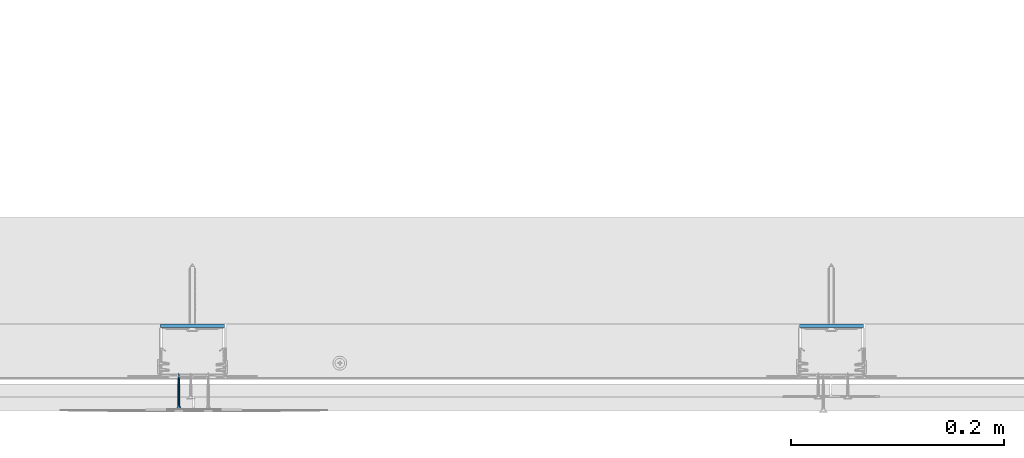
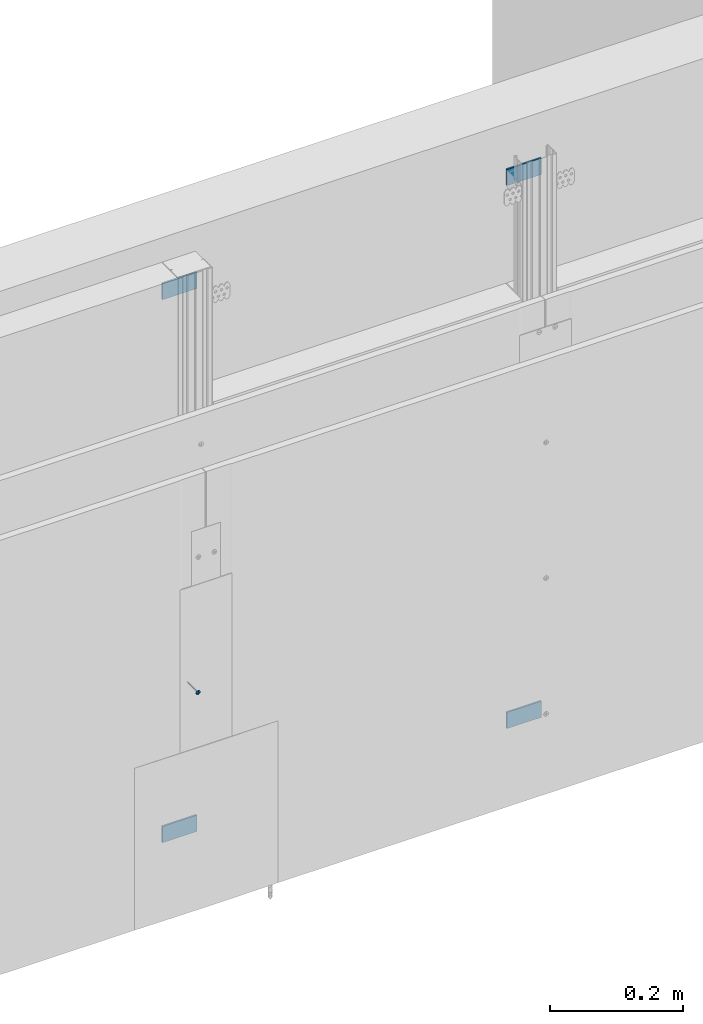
# One storey, part 13 of 56: 5 walls.
"""IFC2X3 building model written with IfcOpenShell, lengths in millimetres."""

from ifc_helpers import new_model, entity, si_unit, converted_unit, direction, frame, origin, origin_with_axes, place, context, project, spatial, faceted_brep, element, save


model = new_model("IFC2X3")

# Units and contexts
model_context = context("Model", 3, precision=1e-05, world=origin(), true_north=direction((0.0, 1.0, 0.0)))
ifc_project = project(units=[si_unit("LENGTHUNIT", "METRE", prefix="MILLI"), si_unit("AREAUNIT", "SQUARE_METRE"), si_unit("VOLUMEUNIT", "CUBIC_METRE"), converted_unit("PLANEANGLEUNIT", "DEGREE", entity("IfcPlaneAngleMeasure", 0.01745), si_unit("PLANEANGLEUNIT", "RADIAN"), dimensions=[0, 0, 0, 0, 0, 0, 0]), si_unit("SOLIDANGLEUNIT", "STERADIAN"), si_unit("MASSUNIT", "GRAM"), si_unit("TIMEUNIT", "SECOND"), si_unit("THERMODYNAMICTEMPERATUREUNIT", "DEGREE_CELSIUS"), si_unit("LUMINOUSINTENSITYUNIT", "LUMEN")], contexts=[model_context])

# Site, building, storey
site_placement = place(None, origin_with_axes())
site = spatial("IfcSite", under=ifc_project, at=site_placement, Name="Default Site", CompositionType="ELEMENT")
building_placement = place(site_placement, origin_with_axes())
building = spatial("IfcBuilding", under=site, at=building_placement, Name="Default Building", CompositionType="ELEMENT")
storey_placement = place(building_placement, origin_with_axes())
storey = spatial("IfcBuildingStorey", under=building, at=storey_placement, Name="Default Building Storey", CompositionType="ELEMENT", Elevation=0.0)

# Walls
for number, where, z_axis, x_axis, name in (
    (1, (2574.793559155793, 2019.140922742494, 1120.095276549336), (0.0, 0.0, 1.0), (1.0, 0.0, 0.0), "Taśma uszczelniająca piankowa RIGIPS szer.30mm"),
    (2, (2574.793559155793, 2019.140922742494, 120.0952765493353), (0.0, 0.0, 1.0), (1.0, 0.0, 0.0), "Taśma uszczelniająca piankowa RIGIPS szer.30mm"),
    (3, (3174.793559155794, 2019.140922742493, 1120.095276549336), (0.0, 0.0, 1.0), (1.0, 0.0, 0.0), "Taśma uszczelniająca piankowa RIGIPS szer.30mm"),
    (4, (3174.793559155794, 2019.140922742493, 120.0952765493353), (0.0, 0.0, 1.0), (1.0, 0.0, 0.0), "Taśma uszczelniająca piankowa RIGIPS szer.30mm"),
):
    element("IfcWall", number, at=place(storey_placement, frame(where, z_axis=z_axis, x_axis=x_axis)), inside=storey, Name=name, context=model_context, shape_type="Brep", body=[
        faceted_brep([(59.99999999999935, 0.0, 4.511946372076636e-12), (0.0, 0.0, 0.0), (1.082867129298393e-12, -2.237925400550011e-11, -30.00000000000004), (60.00000000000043, -2.237925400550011e-11, -29.99999999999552), (0.0, 3.00000000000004, 0.0), (1.082867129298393e-12, 2.999999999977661, -30.00000000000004), (60.00000000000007, 3.00000000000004, 0.0), (60.00000000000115, 2.999999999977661, -30.00000000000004)], [[[0, 1, 2, 3]], [[1, 4, 5, 2]], [[4, 6, 7, 5]], [[6, 0, 3, 7]], [[7, 3, 2, 5]], [[0, 6, 4, 1]]]),
    ])
wall_placement = place(storey_placement, frame((2454.507689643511, 6774.47812905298, -147.7442920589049), z_axis=(0.0, 0.0, 1.0), x_axis=(-1.0, 4.718447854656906e-16, 0.0)))
element("IfcWall", 5, at=wall_placement, inside=storey, Name="Wkręt RIGIPS TN 35", context=model_context, shape_type="Brep", body=[
    faceted_brep([(-141.5377463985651, 4832.598051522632, 555.8000000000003), (-141.5377463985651, 4833.259713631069, 555.8000000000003), (-141.4875329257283, 4833.259713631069, 555.1619773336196), (-141.4875329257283, 4832.598051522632, 555.1619773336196), (-141.3381289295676, 4833.259713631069, 554.5396649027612), (-141.3381289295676, 4832.598051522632, 554.5396649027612), (-141.0932132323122, 4833.259713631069, 553.9483861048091), (-141.0932132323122, 4832.598051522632, 553.9483861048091), (-140.7588164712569, 4833.259713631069, 553.4027001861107), (-140.7588164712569, 4832.598051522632, 553.4027001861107), (-140.3431726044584, 4833.259713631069, 552.9160437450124), (-140.4541727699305, 4832.598051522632, 553.0314907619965), (-140.1080097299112, 4832.598051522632, 552.6986614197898), (-139.8565161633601, 4833.259713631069, 552.5003998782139), (-139.7251262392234, 4832.598051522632, 552.4088262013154), (-139.3108302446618, 4833.259713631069, 552.1660031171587), (-139.3108302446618, 4832.598051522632, 552.1660031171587), (-138.8708651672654, 4832.598051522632, 551.9735584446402), (-138.7195514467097, 4833.259713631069, 551.9210874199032), (-138.4113302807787, 4832.598051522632, 551.8341600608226), (-137.9385961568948, 4832.598051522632, 551.7497404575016), (-138.0972390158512, 4833.259713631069, 551.7716834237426), (-137.4592163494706, 4833.259713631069, 551.7214699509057), (-137.4592163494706, 4832.598051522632, 551.7214699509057), (-136.8211936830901, 4833.259713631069, 551.7716834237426), (-136.8211936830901, 4832.598051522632, 551.7716834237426), (-136.1988812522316, 4833.259713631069, 551.9210874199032), (-136.1988812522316, 4832.598051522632, 551.9210874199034), (-135.6076024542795, 4833.259713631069, 552.1660031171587), (-135.6076024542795, 4832.598051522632, 552.1660031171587), (-135.0619165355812, 4833.259713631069, 552.5003998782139), (-135.0619165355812, 4832.598051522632, 552.5003998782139), (-134.5752600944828, 4833.259713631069, 552.9160437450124), (-134.5752600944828, 4832.598051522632, 552.9160437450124), (-134.1596162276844, 4833.259713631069, 553.4027001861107), (-134.1596162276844, 4832.598051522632, 553.4027001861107), (-133.8252194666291, 4833.259713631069, 553.9483861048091), (-133.8252194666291, 4832.598051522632, 553.9483861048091), (-133.5803037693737, 4833.259713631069, 554.5396649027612), (-133.5803037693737, 4832.598051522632, 554.5396649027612), (-133.430899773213, 4833.259713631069, 556.4380226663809), (-133.430899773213, 4832.598051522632, 556.4380226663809), (-133.3806863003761, 4832.598051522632, 555.8000000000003), (-133.3806863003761, 4833.259713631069, 555.8000000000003), (-133.430899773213, 4832.598051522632, 555.1619773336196), (-133.430899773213, 4833.259713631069, 555.1619773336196), (-133.5803037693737, 4833.259713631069, 557.0603350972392), (-133.5803037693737, 4832.598051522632, 557.0603350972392), (-133.8252194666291, 4833.259713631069, 557.6516138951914), (-133.8252194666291, 4832.598051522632, 557.6516138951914), (-134.1596162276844, 4833.259713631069, 558.1972998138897), (-134.1596162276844, 4832.598051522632, 558.1972998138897), (-134.5752600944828, 4833.259713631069, 558.683956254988), (-134.5752600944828, 4832.598051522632, 558.683956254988), (-135.0619165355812, 4833.259713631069, 559.0996001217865), (-135.0619165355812, 4832.598051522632, 559.0996001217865), (-135.6076024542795, 4833.259713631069, 559.4339968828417), (-135.6076024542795, 4832.598051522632, 559.4339968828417), (-136.1988812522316, 4833.259713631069, 559.6789125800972), (-136.1988812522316, 4832.598051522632, 559.6789125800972), (-136.8211936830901, 4833.259713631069, 559.8283165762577), (-136.8211936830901, 4832.598051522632, 559.8283165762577), (-137.4592163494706, 4833.259713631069, 559.8785300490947), (-137.4592163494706, 4832.598051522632, 559.8785300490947), (-138.0972390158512, 4833.259713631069, 559.8283165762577), (-138.0972390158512, 4832.598051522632, 559.8283165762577), (-138.7195514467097, 4833.259713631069, 559.6789125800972), (-138.7195514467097, 4832.598051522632, 559.6789125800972), (-139.3108302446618, 4833.259713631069, 559.4339968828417), (-139.3108302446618, 4832.598051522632, 559.4339968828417), (-139.8565161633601, 4833.259713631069, 559.0996001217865), (-139.8565161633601, 4832.598051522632, 559.0996001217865), (-140.3431726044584, 4833.259713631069, 558.683956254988), (-140.3431726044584, 4832.598051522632, 558.683956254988), (-140.7588164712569, 4833.259713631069, 558.1972998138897), (-140.7588164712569, 4832.598051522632, 558.1972998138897), (-141.0932132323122, 4833.259713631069, 557.6516138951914), (-141.0932132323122, 4832.598051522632, 557.6516138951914), (-141.3381289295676, 4833.259713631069, 557.0603350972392), (-141.3381289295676, 4832.598051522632, 557.0603350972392), (-141.4875329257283, 4833.259713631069, 556.4380226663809), (-141.4875329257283, 4832.598051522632, 556.4380226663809), (-137.8060615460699, 4829.281368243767, 554.5055560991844), (-137.4592163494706, 4828.206294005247, 554.5693795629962), (-137.651727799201, 4828.206294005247, 554.5845305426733), (-137.4592163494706, 4829.281368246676, 554.4598930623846), (-137.83949897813, 4828.206294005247, 554.6296104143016), (-138.1292698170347, 4829.281368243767, 554.639433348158), (-138.0179063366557, 4828.206294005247, 554.7035091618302), (-138.1825568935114, 4828.206294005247, 554.804407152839), (-138.4068150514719, 4829.281368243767, 554.8524012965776), (-138.329396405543, 4828.206294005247, 554.929819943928), (-138.6197830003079, 4829.281368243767, 555.1299465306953), (-138.4548091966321, 4828.206294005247, 555.0766594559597), (-138.5557071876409, 4828.206294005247, 555.2413100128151), (-138.7536602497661, 4829.281368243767, 555.4531548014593), (-138.6296059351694, 4828.206294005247, 555.4197173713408), (-138.6746858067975, 4828.206294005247, 555.60748855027), (-138.7993232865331, 4829.281368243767, 555.7999999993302), (-138.6898367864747, 4828.206294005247, 555.8000000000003), (-138.753660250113, 4829.281368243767, 556.1468451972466), (-138.6746858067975, 4828.206294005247, 555.9925114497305), (-138.6296059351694, 4828.206294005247, 556.1802826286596), (-138.6197830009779, 4829.281368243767, 556.4700534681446), (-138.5557071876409, 4828.206294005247, 556.3586899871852), (-138.4548091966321, 4828.206294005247, 556.5233405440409), (-138.4068150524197, 4829.281368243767, 556.7475987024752), (-138.329396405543, 4828.206294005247, 556.6701800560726), (-138.1292698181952, 4829.281368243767, 556.9605666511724), (-138.1825568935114, 4828.206294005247, 556.7955928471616), (-138.0179063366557, 4828.206294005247, 556.8964908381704), (-137.8060615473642, 4829.281368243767, 557.0944439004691), (-137.83949897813, 4828.206294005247, 556.9703895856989), (-137.651727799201, 4828.206294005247, 557.0154694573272), (-137.4592163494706, 4829.281368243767, 557.1401069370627), (-137.4592163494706, 4828.206294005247, 557.0306204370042), (-137.112371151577, 4829.281368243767, 557.0944439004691), (-137.2667048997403, 4828.206294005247, 557.0154694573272), (-137.0789337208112, 4828.206294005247, 556.9703895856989), (-136.7891628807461, 4829.281368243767, 556.9605666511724), (-136.9005263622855, 4828.206294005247, 556.8964908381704), (-136.7358758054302, 4828.206294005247, 556.7955928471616), (-136.5116176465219, 4829.281368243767, 556.7475987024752), (-136.5890362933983, 4828.206294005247, 556.6701800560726), (-136.2986496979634, 4829.281368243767, 556.4700534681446), (-136.4636235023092, 4828.206294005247, 556.5233405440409), (-136.3627255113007, 4828.206294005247, 556.3586899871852), (-136.1647724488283, 4829.281368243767, 556.1468451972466), (-136.2888267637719, 4828.206294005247, 556.1802826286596), (-136.2437468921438, 4828.206294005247, 555.9925114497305), (-136.1191094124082, 4829.281368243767, 555.7999999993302), (-136.2285959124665, 4828.206294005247, 555.8000000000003), (-136.1647724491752, 4829.281368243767, 555.4531548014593), (-136.2437468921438, 4828.206294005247, 555.60748855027), (-136.2888267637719, 4828.206294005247, 555.4197173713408), (-136.2986496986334, 4829.281368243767, 555.1299465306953), (-136.3627255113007, 4828.206294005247, 555.2413100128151), (-136.4636235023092, 4828.206294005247, 555.0766594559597), (-136.5116176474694, 4829.281368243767, 554.8524012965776), (-136.5890362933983, 4828.206294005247, 554.929819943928), (-136.7891628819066, 4829.281368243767, 554.639433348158), (-136.7358758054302, 4828.206294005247, 554.804407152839), (-136.9005263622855, 4828.206294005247, 554.7035091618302), (-137.1123711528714, 4829.281368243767, 554.5055560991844), (-137.0789337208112, 4828.206294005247, 554.6296104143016), (-137.2667048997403, 4828.206294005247, 554.5845305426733), (-137.4592163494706, 4830.288222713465, 554.1737111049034), (-137.8801308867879, 4830.288222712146, 554.229125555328), (-138.2723607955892, 4830.288222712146, 554.3915925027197), (-138.6091762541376, 4830.288222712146, 554.6500400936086), (-138.8676238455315, 4830.288222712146, 554.9868555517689), (-139.0300907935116, 4830.288222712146, 555.3790854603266), (-139.0855052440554, 4830.288222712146, 555.7999999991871), (-139.0300907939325, 4830.288222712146, 556.2209145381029), (-138.8676238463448, 4830.288222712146, 556.6131444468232), (-138.6091762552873, 4830.288222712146, 556.9499599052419), (-138.2723607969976, 4830.288222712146, 557.2084074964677), (-137.8801308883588, 4830.288222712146, 557.3708744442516), (-137.4592163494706, 4830.288222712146, 557.426288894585), (-137.0383018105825, 4830.288222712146, 557.3708744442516), (-136.6460719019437, 4830.288222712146, 557.2084074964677), (-136.309256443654, 4830.288222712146, 556.9499599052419), (-136.0508088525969, 4830.288222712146, 556.6131444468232), (-135.8883419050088, 4830.288222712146, 556.2209145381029), (-135.8329274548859, 4830.288222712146, 555.7999999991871), (-135.8883419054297, 4830.288222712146, 555.3790854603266), (-136.0508088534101, 4830.288222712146, 554.9868555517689), (-136.309256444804, 4830.288222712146, 554.6500400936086), (-136.6460719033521, 4830.288222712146, 554.3915925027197), (-137.0383018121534, 4830.288222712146, 554.229125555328), (-137.4592163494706, 4831.168773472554, 553.7273431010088), (-137.9956594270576, 4831.168773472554, 553.7979671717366), (-138.4955447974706, 4831.168773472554, 554.005026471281), (-138.9248060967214, 4831.168773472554, 554.3344102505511), (-139.2541898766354, 4831.168773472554, 554.7636715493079), (-139.4612491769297, 4831.168773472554, 555.2635569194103), (-139.5318732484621, 4831.168773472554, 555.7999999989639), (-139.461249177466, 4831.168773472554, 556.3364430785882), (-139.2541898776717, 4831.168773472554, 556.8363284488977), (-138.9248060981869, 4831.168773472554, 557.2655897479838), (-138.4955447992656, 4831.168773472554, 557.594973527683), (-137.9956594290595, 4831.168773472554, 557.8020328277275), (-137.4592163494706, 4831.168773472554, 557.8726568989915), (-136.9227732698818, 4831.168773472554, 557.8020328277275), (-136.4228878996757, 4831.168773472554, 557.594973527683), (-135.9936266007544, 4831.168773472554, 557.2655897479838), (-135.6642428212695, 4831.168773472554, 556.8363284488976), (-135.4571835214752, 4831.168773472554, 556.3364430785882), (-135.3865594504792, 4831.168773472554, 555.7999999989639), (-135.4571835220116, 4831.168773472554, 555.2635569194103), (-135.6642428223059, 4831.168773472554, 554.7636715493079), (-135.9936266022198, 4831.168773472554, 554.3344102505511), (-136.4228879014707, 4831.168773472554, 554.005026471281), (-136.9227732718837, 4831.168773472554, 553.7979671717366), (-137.4592163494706, 4831.872222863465, 553.1465393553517), (-138.1459824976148, 4831.872222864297, 553.2369538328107), (-138.7859466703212, 4831.872222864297, 553.5020356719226), (-139.3354963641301, 4831.872222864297, 553.9237199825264), (-139.7571806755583, 4831.872222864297, 554.4732696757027), (-140.02226251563, 4831.872222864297, 555.1132338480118), (-140.1126769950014, 4831.872222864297, 555.7999999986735), (-140.0222625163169, 4831.872222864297, 556.4867661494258), (-139.7571806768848, 4831.872222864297, 557.1267303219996), (-139.3354963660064, 4831.872222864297, 557.6762800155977), (-138.785946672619, 4831.872222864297, 558.0979643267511), (-138.1459825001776, 4831.872222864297, 558.3630461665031), (-137.4592163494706, 4831.872222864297, 558.4534606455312), (-136.7724501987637, 4831.872222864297, 558.3630461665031), (-136.1324860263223, 4831.872222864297, 558.0979643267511), (-135.5829363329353, 4831.872222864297, 557.6762800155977), (-135.1612520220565, 4831.872222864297, 557.1267303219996), (-134.8961701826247, 4831.872222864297, 556.4867661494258), (-134.8057557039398, 4831.872222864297, 555.7999999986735), (-134.8961701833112, 4831.872222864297, 555.1132338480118), (-135.161252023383, 4831.872222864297, 554.4732696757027), (-135.5829363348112, 4831.872222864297, 553.9237199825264), (-136.1324860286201, 4831.872222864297, 553.5020356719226), (-136.7724502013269, 4831.872222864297, 553.2369538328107), (-137.4592163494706, 4832.357989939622, 552.4648055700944), (-138.3224281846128, 4832.357989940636, 552.578449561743), (-139.1268135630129, 4832.357989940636, 552.9116368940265), (-139.8175549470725, 4832.357989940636, 553.4416613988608), (-140.3475794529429, 4832.357989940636, 554.1324027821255), (-140.6807667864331, 4832.357989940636, 554.9367881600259), (-140.7944107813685, 4832.357989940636, 555.7999999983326), (-140.6807667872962, 4832.357989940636, 556.6632118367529), (-140.3475794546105, 4832.357989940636, 557.4675972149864), (-139.817554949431, 4832.357989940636, 558.1583385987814), (-139.1268135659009, 4832.357989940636, 558.6883631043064), (-138.3224281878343, 4832.357989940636, 559.0215504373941), (-137.4592163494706, 4832.357989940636, 559.1351944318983), (-136.5960045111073, 4832.357989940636, 559.0215504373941), (-135.7916191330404, 4832.357989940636, 558.6883631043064), (-135.1008777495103, 4832.357989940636, 558.1583385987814), (-134.5708532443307, 4832.357989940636, 557.4675972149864), (-134.2376659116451, 4832.357989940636, 556.6632118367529), (-134.1240219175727, 4832.357989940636, 555.7999999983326), (-134.2376659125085, 4832.357989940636, 554.9367881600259), (-134.5708532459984, 4832.357989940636, 554.1324027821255), (-135.1008777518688, 4832.357989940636, 553.4416613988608), (-135.7916191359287, 4832.357989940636, 552.9116368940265), (-136.5960045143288, 4832.357989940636, 552.578449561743), (-138.6898367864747, 4804.093757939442, 555.8000000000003), (-138.6746858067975, 4804.093757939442, 555.60748855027), (-138.6296059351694, 4804.093757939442, 555.4197173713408), (-138.5557071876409, 4804.093757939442, 555.2413100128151), (-138.4548091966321, 4804.093757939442, 555.0766594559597), (-138.329396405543, 4804.093757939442, 554.929819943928), (-138.1825568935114, 4804.093757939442, 554.804407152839), (-138.0179063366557, 4804.093757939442, 554.7035091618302), (-137.83949897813, 4804.093757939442, 554.6296104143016), (-137.651727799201, 4804.093757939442, 554.5845305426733), (-137.4592163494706, 4804.093757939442, 554.5693795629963), (-137.2667048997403, 4804.093757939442, 554.5845305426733), (-137.0789337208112, 4804.093757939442, 554.6296104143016), (-136.9005263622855, 4804.093757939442, 554.7035091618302), (-136.7358758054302, 4804.093757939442, 554.804407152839), (-136.5890362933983, 4804.093757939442, 554.929819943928), (-136.4636235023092, 4804.093757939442, 555.0766594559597), (-136.3627255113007, 4804.093757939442, 555.2413100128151), (-136.2888267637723, 4804.093757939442, 555.4197173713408), (-136.2437468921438, 4804.093757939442, 555.9925114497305), (-136.2285959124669, 4804.093757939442, 555.8000000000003), (-136.2437468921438, 4804.093757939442, 555.60748855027), (-136.2888267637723, 4804.093757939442, 556.1802826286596), (-136.3627255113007, 4804.093757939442, 556.3586899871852), (-136.4636235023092, 4804.093757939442, 556.5233405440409), (-136.5890362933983, 4804.093757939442, 556.6701800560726), (-136.7358758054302, 4804.093757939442, 556.7955928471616), (-136.9005263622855, 4804.093757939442, 556.8964908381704), (-137.0789337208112, 4804.093757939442, 556.9703895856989), (-137.2667048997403, 4804.093757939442, 557.0154694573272), (-137.4592163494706, 4804.093757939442, 557.0306204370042), (-137.651727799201, 4804.093757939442, 557.0154694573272), (-137.83949897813, 4804.093757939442, 556.9703895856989), (-138.0179063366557, 4804.093757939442, 556.8964908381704), (-138.1825568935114, 4804.093757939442, 556.7955928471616), (-138.329396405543, 4804.093757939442, 556.6701800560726), (-138.4548091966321, 4804.093757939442, 556.5233405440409), (-138.5557071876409, 4804.093757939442, 556.3586899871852), (-138.6296059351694, 4804.093757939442, 556.1802826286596), (-138.6746858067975, 4804.093757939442, 555.9925114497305), (-137.4592163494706, 4797.627063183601, 555.8000000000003), (-139.9592163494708, 4833.259713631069, 556.3000000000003), (-137.9592163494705, 4833.259713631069, 556.3000000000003), (-139.9592163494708, 4833.259713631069, 555.3000000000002), (-137.9592163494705, 4833.259713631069, 555.3000000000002), (-137.9592163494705, 4833.259713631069, 553.3000000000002), (-136.9592163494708, 4833.259713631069, 553.3000000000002), (-136.9592163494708, 4833.259713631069, 555.3000000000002), (-134.9592163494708, 4833.259713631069, 555.3000000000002), (-134.9592163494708, 4833.259713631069, 556.3000000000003), (-136.9592163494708, 4833.259713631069, 556.3000000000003), (-136.9592163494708, 4833.259713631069, 558.3000000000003), (-137.9592163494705, 4833.259713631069, 558.3000000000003), (-136.9592163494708, 4831.988379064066, 556.3000000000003), (-134.9592163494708, 4831.988379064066, 556.3000000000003), (-134.9592163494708, 4831.988379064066, 555.3000000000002), (-136.9592163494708, 4831.988379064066, 555.3000000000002), (-136.9592163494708, 4831.988379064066, 553.3000000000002), (-137.9592163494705, 4831.988379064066, 553.3000000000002), (-137.9592163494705, 4831.988379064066, 555.3000000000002), (-139.9592163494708, 4831.988379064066, 555.3000000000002), (-139.9592163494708, 4831.988379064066, 556.3000000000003), (-137.9592163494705, 4831.988379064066, 556.3000000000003), (-137.9592163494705, 4831.988379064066, 558.3000000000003), (-136.9592163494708, 4831.988379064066, 558.3000000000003)], [[[0, 1, 2, 3]], [[4, 5, 3, 2]], [[6, 7, 5, 4]], [[7, 6, 8, 9]], [[8, 10, 9]], [[10, 11, 9]], [[12, 11, 13]], [[11, 10, 13]], [[13, 14, 12]], [[13, 15, 14]], [[15, 16, 14]], [[17, 16, 18]], [[16, 15, 18]], [[18, 19, 17]], [[20, 19, 21]], [[19, 18, 21]], [[21, 22, 20]], [[22, 23, 20]], [[23, 22, 24, 25]], [[26, 27, 25, 24]], [[28, 29, 27, 26]], [[29, 28, 30, 31]], [[32, 33, 31, 30]], [[33, 32, 34, 35]], [[36, 37, 35, 34]], [[38, 39, 37, 36]], [[40, 41, 42, 43]], [[43, 42, 44, 45]], [[39, 38, 45, 44]], [[46, 47, 41, 40]], [[48, 49, 47, 46]], [[49, 48, 50, 51]], [[52, 53, 51, 50]], [[53, 52, 54, 55]], [[56, 57, 55, 54]], [[58, 59, 57, 56]], [[59, 58, 60, 61]], [[62, 63, 61, 60]], [[63, 62, 64, 65]], [[66, 67, 65, 64]], [[68, 69, 67, 66]], [[69, 68, 70, 71]], [[72, 73, 71, 70]], [[73, 72, 74, 75]], [[76, 77, 75, 74]], [[78, 79, 77, 76]], [[79, 78, 80, 81]], [[1, 0, 81, 80]], [[82, 83, 84]], [[82, 85, 83]], [[84, 86, 82]], [[82, 86, 87]], [[88, 87, 86]], [[87, 88, 89]], [[89, 90, 87]], [[89, 91, 90]], [[92, 91, 93]], [[92, 90, 91]], [[93, 94, 92]], [[92, 94, 95]], [[96, 95, 94]], [[95, 96, 97]], [[97, 98, 95]], [[97, 99, 98]], [[100, 99, 101]], [[100, 98, 99]], [[101, 102, 100]], [[100, 102, 103]], [[104, 103, 102]], [[103, 104, 105]], [[105, 106, 103]], [[105, 107, 106]], [[108, 107, 109]], [[108, 106, 107]], [[109, 110, 108]], [[108, 110, 111]], [[112, 111, 110]], [[111, 112, 113]], [[113, 114, 111]], [[113, 115, 114]], [[116, 115, 117]], [[116, 114, 115]], [[117, 118, 116]], [[116, 118, 119]], [[120, 119, 118]], [[119, 120, 121]], [[121, 122, 119]], [[121, 123, 122]], [[124, 123, 125]], [[124, 122, 123]], [[125, 126, 124]], [[124, 126, 127]], [[128, 127, 126]], [[127, 128, 129]], [[129, 130, 127]], [[129, 131, 130]], [[132, 131, 133]], [[132, 130, 131]], [[133, 134, 132]], [[132, 134, 135]], [[136, 135, 134]], [[135, 136, 137]], [[137, 138, 135]], [[137, 139, 138]], [[140, 139, 141]], [[140, 138, 139]], [[141, 142, 140]], [[140, 142, 143]], [[144, 143, 142]], [[143, 144, 145]], [[145, 85, 143]], [[145, 83, 85]], [[146, 85, 147]], [[82, 147, 85]], [[87, 148, 147, 82]], [[90, 149, 148, 87]], [[92, 150, 149, 90]], [[95, 151, 150, 92]], [[98, 152, 151, 95]], [[100, 153, 152, 98]], [[103, 154, 153, 100]], [[106, 155, 154, 103]], [[108, 156, 155, 106]], [[111, 157, 156, 108]], [[114, 158, 157, 111]], [[116, 159, 158, 114]], [[119, 160, 159, 116]], [[122, 161, 160, 119]], [[124, 162, 161, 122]], [[127, 163, 162, 124]], [[130, 164, 163, 127]], [[132, 165, 164, 130]], [[135, 166, 165, 132]], [[138, 167, 166, 135]], [[140, 168, 167, 138]], [[143, 169, 168, 140]], [[143, 85, 169]], [[146, 169, 85]], [[170, 146, 171]], [[147, 171, 146]], [[148, 172, 171, 147]], [[149, 173, 172, 148]], [[150, 174, 173, 149]], [[151, 175, 174, 150]], [[152, 176, 175, 151]], [[153, 177, 176, 152]], [[154, 178, 177, 153]], [[155, 179, 178, 154]], [[156, 180, 179, 155]], [[157, 181, 180, 156]], [[158, 182, 181, 157]], [[159, 183, 182, 158]], [[160, 184, 183, 159]], [[161, 185, 184, 160]], [[162, 186, 185, 161]], [[163, 187, 186, 162]], [[164, 188, 187, 163]], [[165, 189, 188, 164]], [[166, 190, 189, 165]], [[167, 191, 190, 166]], [[168, 192, 191, 167]], [[169, 193, 192, 168]], [[169, 146, 193]], [[170, 193, 146]], [[194, 170, 195]], [[171, 195, 170]], [[172, 196, 195, 171]], [[173, 197, 196, 172]], [[174, 198, 197, 173]], [[175, 199, 198, 174]], [[176, 200, 199, 175]], [[177, 201, 200, 176]], [[178, 202, 201, 177]], [[179, 203, 202, 178]], [[180, 204, 203, 179]], [[181, 205, 204, 180]], [[182, 206, 205, 181]], [[183, 207, 206, 182]], [[184, 208, 207, 183]], [[185, 209, 208, 184]], [[186, 210, 209, 185]], [[187, 211, 210, 186]], [[188, 212, 211, 187]], [[189, 213, 212, 188]], [[190, 214, 213, 189]], [[191, 215, 214, 190]], [[192, 216, 215, 191]], [[193, 217, 216, 192]], [[193, 170, 217]], [[194, 217, 170]], [[218, 19, 20]], [[218, 219, 19]], [[20, 23, 218]], [[218, 194, 219]], [[195, 219, 194]], [[219, 16, 17]], [[219, 220, 16]], [[17, 19, 219]], [[196, 220, 219, 195]], [[221, 11, 12]], [[220, 12, 14]], [[220, 221, 12]], [[14, 16, 220]], [[197, 221, 220, 196]], [[222, 7, 9]], [[9, 221, 222]], [[9, 11, 221]], [[198, 222, 221, 197]], [[5, 7, 223]], [[222, 223, 7]], [[199, 223, 222, 198]], [[223, 0, 3]], [[223, 224, 0]], [[3, 5, 223]], [[200, 224, 223, 199]], [[225, 79, 81]], [[81, 224, 225]], [[81, 0, 224]], [[201, 225, 224, 200]], [[225, 226, 77, 79]], [[202, 226, 225, 201]], [[226, 73, 75]], [[226, 227, 73]], [[75, 77, 226]], [[203, 227, 226, 202]], [[228, 69, 71]], [[71, 227, 228]], [[71, 73, 227]], [[204, 228, 227, 203]], [[228, 229, 67, 69]], [[205, 229, 228, 204]], [[229, 63, 65]], [[229, 230, 63]], [[65, 67, 229]], [[206, 230, 229, 205]], [[231, 59, 61]], [[61, 230, 231]], [[61, 63, 230]], [[207, 231, 230, 206]], [[231, 232, 57, 59]], [[208, 232, 231, 207]], [[232, 53, 55]], [[232, 233, 53]], [[55, 57, 232]], [[209, 233, 232, 208]], [[234, 49, 51]], [[51, 233, 234]], [[51, 53, 233]], [[210, 234, 233, 209]], [[234, 235, 47, 49]], [[211, 235, 234, 210]], [[235, 42, 41]], [[235, 236, 42]], [[41, 47, 235]], [[212, 236, 235, 211]], [[237, 39, 44]], [[44, 236, 237]], [[44, 42, 236]], [[213, 237, 236, 212]], [[37, 39, 238]], [[237, 238, 39]], [[214, 238, 237, 213]], [[238, 33, 35]], [[238, 239, 33]], [[35, 37, 238]], [[215, 239, 238, 214]], [[240, 29, 31]], [[31, 239, 240]], [[31, 33, 239]], [[216, 240, 239, 215]], [[27, 29, 241]], [[240, 241, 29]], [[217, 241, 240, 216]], [[217, 194, 241]], [[218, 241, 194]], [[241, 23, 25]], [[241, 218, 23]], [[25, 27, 241]], [[242, 99, 97, 243]], [[96, 244, 243, 97]], [[94, 245, 244, 96]], [[245, 94, 93, 246]], [[91, 247, 246, 93]], [[247, 91, 89, 248]], [[88, 249, 248, 89]], [[86, 250, 249, 88]], [[250, 86, 84, 251]], [[83, 252, 251, 84]], [[252, 83, 145, 253]], [[144, 254, 253, 145]], [[142, 255, 254, 144]], [[255, 142, 141, 256]], [[139, 257, 256, 141]], [[257, 139, 137, 258]], [[136, 259, 258, 137]], [[134, 260, 259, 136]], [[129, 261, 262, 131]], [[131, 262, 263, 133]], [[260, 134, 133, 263]], [[128, 264, 261, 129]], [[126, 265, 264, 128]], [[265, 126, 125, 266]], [[123, 267, 266, 125]], [[267, 123, 121, 268]], [[120, 269, 268, 121]], [[118, 270, 269, 120]], [[270, 118, 117, 271]], [[115, 272, 271, 117]], [[272, 115, 113, 273]], [[112, 274, 273, 113]], [[110, 275, 274, 112]], [[275, 110, 109, 276]], [[107, 277, 276, 109]], [[277, 107, 105, 278]], [[104, 279, 278, 105]], [[102, 280, 279, 104]], [[280, 102, 101, 281]], [[99, 242, 281, 101]], [[243, 244, 282]], [[282, 242, 243]], [[244, 245, 282]], [[246, 247, 282]], [[282, 245, 246]], [[248, 249, 282]], [[282, 247, 248]], [[249, 250, 282]], [[251, 252, 282]], [[282, 250, 251]], [[253, 254, 282]], [[282, 252, 253]], [[254, 255, 282]], [[256, 257, 282]], [[282, 255, 256]], [[258, 259, 282]], [[282, 257, 258]], [[259, 260, 282]], [[263, 262, 282]], [[282, 260, 263]], [[261, 264, 282]], [[282, 262, 261]], [[264, 265, 282]], [[266, 267, 282]], [[282, 265, 266]], [[268, 269, 282]], [[282, 267, 268]], [[269, 270, 282]], [[271, 272, 282]], [[282, 270, 271]], [[273, 274, 282]], [[282, 272, 273]], [[274, 275, 282]], [[276, 277, 282]], [[282, 275, 276]], [[278, 279, 282]], [[282, 277, 278]], [[279, 280, 282]], [[281, 242, 282]], [[282, 280, 281]], [[283, 76, 74, 284]], [[283, 285, 286, 287, 288, 289, 290, 291, 292, 293, 294, 284, 74, 72, 70, 68, 66, 64, 62, 60, 58, 56, 54, 52, 50, 48, 46, 40, 43, 45, 38, 36, 34, 32, 30, 28, 26, 24, 22, 21, 18, 15, 13, 10, 8, 6, 4, 2, 1, 80, 78, 76]], [[295, 296, 297, 298, 299, 300, 301, 302, 303, 304, 305, 306]], [[297, 290, 289, 298]], [[296, 291, 290, 297]], [[295, 292, 291, 296]], [[306, 293, 292, 295]], [[305, 294, 293, 306]], [[304, 284, 294, 305]], [[303, 283, 284, 304]], [[302, 285, 283, 303]], [[301, 286, 285, 302]], [[300, 287, 286, 301]], [[299, 288, 287, 300]], [[298, 289, 288, 299]]]),
])

save(model, "model.ifc")
